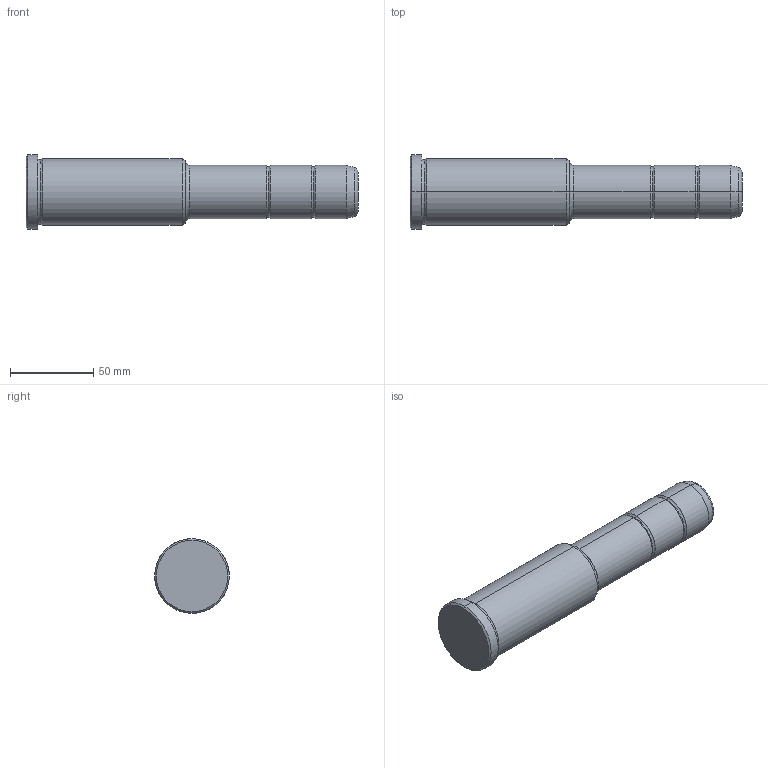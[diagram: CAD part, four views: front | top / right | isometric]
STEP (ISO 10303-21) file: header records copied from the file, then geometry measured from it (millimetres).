
FILE_DESCRIPTION(('CATIA V5 STEP Exchange'),'2;1');
FILE_NAME('C:\Users\Utente\Desktop\IO LAVORO\3D X SITO CF\X SITO\PLASTICA\351\351-32X96X200.stp','2021-09-10T12:20:45+00:00',('none'),('none'),'CATIA Version 5 Release 20 GA (IN-10)','CATIA V5 STEP AP203','none');
FILE_SCHEMA(('CONFIG_CONTROL_DESIGN'));
Length unit declared in the file: millimetre
Products named in the file (1): 351-32X96X200
Bounding box: 200 x 45 x 45 mm (x, y, z)
Volume: 205410.2 mm3; surface area: 25380.4 mm2
Topology: 1 solids, 1 shells, 36 faces, 102 edges, 70 vertices
Faces by surface type: torus 16, cylinder 10, cone 6, plane 4
Entity records: 1292 total; most frequent: CARTESIAN_POINT 321, ORIENTED_EDGE 204, DIRECTION 166, AXIS2_PLACEMENT_3D 115, EDGE_CURVE 102, CIRCLE 78, VERTEX_POINT 70, EDGE_LOOP 38
